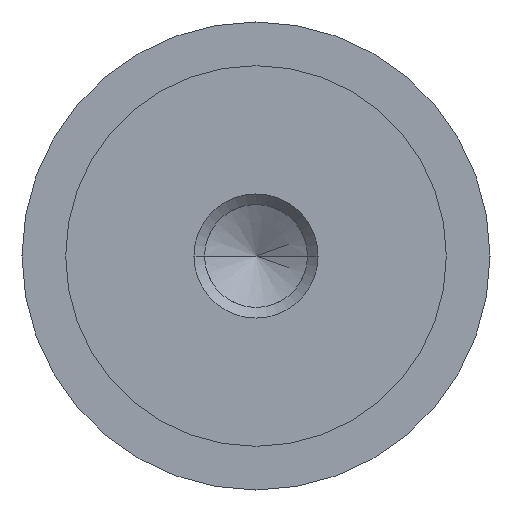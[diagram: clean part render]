
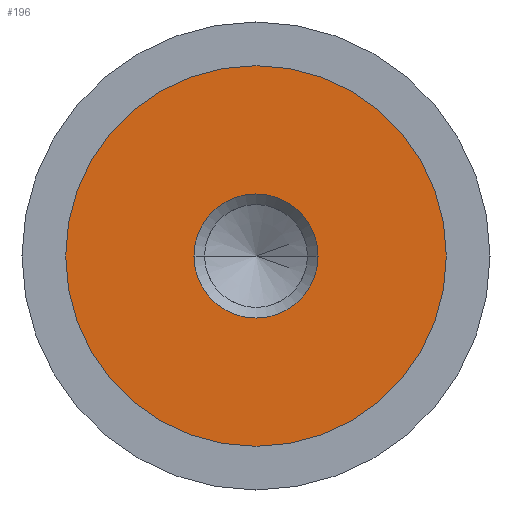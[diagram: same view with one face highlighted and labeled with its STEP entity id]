
A CAD part, left-side view. The second image highlights one B-rep face of the part: STEP entity #196.
In plain terms, the highlighted planar face has unit normal (-1, 0, 0).
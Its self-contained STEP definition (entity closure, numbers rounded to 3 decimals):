
#20 = DIRECTION ( 'NONE',  ( 0., 0., -1. ) ) ;
#29 = PLANE ( 'NONE',  #757 ) ;
#79 = CARTESIAN_POINT ( 'NONE',  ( -14.99, 0., -6.1 ) ) ;
#102 = DIRECTION ( 'NONE',  ( 0., 0., 1. ) ) ;
#127 = ORIENTED_EDGE ( 'NONE', *, *, #288, .T. ) ;
#135 = CARTESIAN_POINT ( 'NONE',  ( -14.99, 0., 0. ) ) ;
#175 = VERTEX_POINT ( 'NONE', #79 ) ;
#178 = CIRCLE ( 'NONE', #278, 1.99 ) ;
#196 = ADVANCED_FACE ( 'NONE', ( #674, #429 ), #29, .F. ) ;
#200 = DIRECTION ( 'NONE',  ( 1., 0., 0. ) ) ;
#207 = CARTESIAN_POINT ( 'NONE',  ( -14.99, 6.1, 0. ) ) ;
#215 = CARTESIAN_POINT ( 'NONE',  ( -14.99, 0., 0. ) ) ;
#216 = CIRCLE ( 'NONE', #529, 6.1 ) ;
#254 = VERTEX_POINT ( 'NONE', #494 ) ;
#266 = AXIS2_PLACEMENT_3D ( 'NONE', #215, #571, #102 ) ;
#274 = EDGE_CURVE ( 'NONE', #391, #254, #178, .T. ) ;
#278 = AXIS2_PLACEMENT_3D ( 'NONE', #135, #739, #20 ) ;
#283 = CARTESIAN_POINT ( 'NONE',  ( -14.99, -1.99, 0. ) ) ;
#288 = EDGE_CURVE ( 'NONE', #254, #391, #742, .T. ) ;
#318 = CARTESIAN_POINT ( 'NONE',  ( -14.99, 0., 0. ) ) ;
#327 = EDGE_LOOP ( 'NONE', ( #359, #386 ) ) ;
#359 = ORIENTED_EDGE ( 'NONE', *, *, #566, .T. ) ;
#369 = DIRECTION ( 'NONE',  ( 1., 0., 0. ) ) ;
#380 = DIRECTION ( 'NONE',  ( 0., 0., -1. ) ) ;
#386 = ORIENTED_EDGE ( 'NONE', *, *, #632, .T. ) ;
#391 = VERTEX_POINT ( 'NONE', #283 ) ;
#423 = AXIS2_PLACEMENT_3D ( 'NONE', #318, #369, #380 ) ;
#429 = FACE_OUTER_BOUND ( 'NONE', #327, .T. ) ;
#482 = VERTEX_POINT ( 'NONE', #661 ) ;
#494 = CARTESIAN_POINT ( 'NONE',  ( -14.99, 1.99, 0. ) ) ;
#500 = DIRECTION ( 'NONE',  ( 0., 0., -1. ) ) ;
#529 = AXIS2_PLACEMENT_3D ( 'NONE', #616, #746, #685 ) ;
#566 = EDGE_CURVE ( 'NONE', #482, #175, #760, .T. ) ;
#571 = DIRECTION ( 'NONE',  ( -1., 0., 0. ) ) ;
#616 = CARTESIAN_POINT ( 'NONE',  ( -14.99, 0., 0. ) ) ;
#632 = EDGE_CURVE ( 'NONE', #175, #482, #216, .T. ) ;
#661 = CARTESIAN_POINT ( 'NONE',  ( -14.99, 0., 6.1 ) ) ;
#664 = EDGE_LOOP ( 'NONE', ( #750, #127 ) ) ;
#674 = FACE_BOUND ( 'NONE', #664, .T. ) ;
#685 = DIRECTION ( 'NONE',  ( 0., 0., 1. ) ) ;
#739 = DIRECTION ( 'NONE',  ( 1., 0., 0. ) ) ;
#742 = CIRCLE ( 'NONE', #423, 1.99 ) ;
#746 = DIRECTION ( 'NONE',  ( -1., 0., 0. ) ) ;
#750 = ORIENTED_EDGE ( 'NONE', *, *, #274, .T. ) ;
#757 = AXIS2_PLACEMENT_3D ( 'NONE', #207, #200, #500 ) ;
#760 = CIRCLE ( 'NONE', #266, 6.1 ) ;
